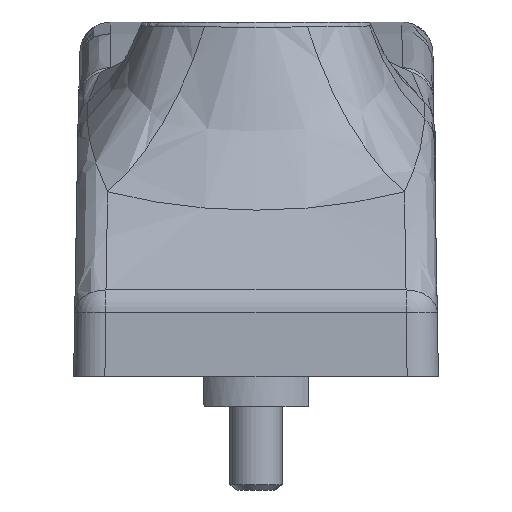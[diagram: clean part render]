
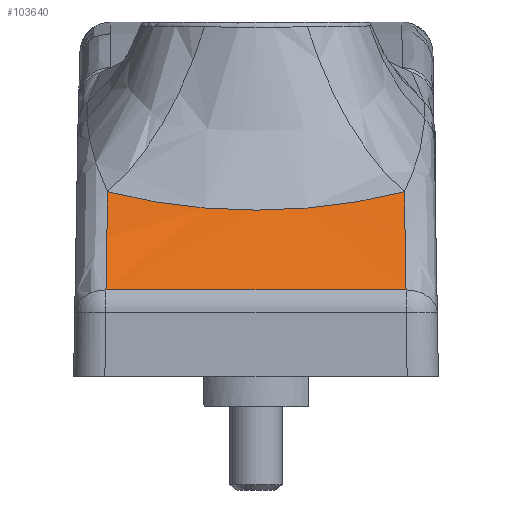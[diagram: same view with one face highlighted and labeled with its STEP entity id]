
A CAD part, front view. The second image highlights one B-rep face of the part: STEP entity #103640.
In plain terms, the highlighted cylindrical face has radius 80 mm (diameter 160 mm), a partial arc.
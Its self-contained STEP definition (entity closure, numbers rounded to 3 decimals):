
#1747 = ORIENTED_EDGE ( 'NONE', *, *, #120735, .T. ) ;
#7858 = CYLINDRICAL_SURFACE ( 'NONE', #159225, 80. ) ;
#8370 = CARTESIAN_POINT ( 'NONE',  ( 31.781, 8.999, 4.98 ) ) ;
#10298 = CARTESIAN_POINT ( 'NONE',  ( 24.215, 11.249, 6.325 ) ) ;
#11990 = VECTOR ( 'NONE', #126260, 1000. ) ;
#12289 = VERTEX_POINT ( 'NONE', #55536 ) ;
#12777 = EDGE_CURVE ( 'NONE', #116726, #12289, #63159, .T. ) ;
#14229 = CARTESIAN_POINT ( 'NONE',  ( 7.834, 11.861, 6.729 ) ) ;
#23863 = DIRECTION ( 'NONE',  ( 0., 0., 1. ) ) ;
#28287 = CARTESIAN_POINT ( 'NONE',  ( 4.371, 12.949, 7.426 ) ) ;
#29218 = CARTESIAN_POINT ( 'NONE',  ( 3.265, 13.415, 7.715 ) ) ;
#29221 = CARTESIAN_POINT ( 'NONE',  ( 23.609, 11.15, 6.259 ) ) ;
#41248 = CARTESIAN_POINT ( 'NONE',  ( 3.265, 13.415, 7.715 ) ) ;
#52492 = CARTESIAN_POINT ( 'NONE',  ( 3.265, 13.415, 7.715 ) ) ;
#55536 = CARTESIAN_POINT ( 'NONE',  ( 31.893, 1.064, -1.71 ) ) ;
#58111 = CARTESIAN_POINT ( 'NONE',  ( 26.013, 11.587, 6.549 ) ) ;
#60077 = CARTESIAN_POINT ( 'NONE',  ( 11.403, 11.133, 6.248 ) ) ;
#63159 = LINE ( 'NONE', #154302, #11990 ) ;
#69242 = CARTESIAN_POINT ( 'NONE',  ( 31.735, 13.415, 7.715 ) ) ;
#76086 = CARTESIAN_POINT ( 'NONE',  ( 3.107, 1.064, -1.71 ) ) ;
#86230 = CARTESIAN_POINT ( 'NONE',  ( 30.629, 12.949, 7.426 ) ) ;
#87205 = CARTESIAN_POINT ( 'NONE',  ( 18.737, 10.69, 5.95 ) ) ;
#88011 = B_SPLINE_CURVE_WITH_KNOTS ( 'NONE', 3,
 ( #132316, #86230, #105130, #147312, #58111, #10298, #29221, #166220, #90197, #149301, #87205, #148309, #165279, #117225, #60077, #178236, #14229, #197118, #28287, #41248 ),
 .UNSPECIFIED., .F., .F.,
 ( 4, 2, 2, 2, 2, 2, 2, 2, 2, 4 ),
 ( 0., 0.004, 0.007, 0.009, 0.011, 0.015, 0.018, 0.022, 0.026, 0.029 ),
 .UNSPECIFIED. ) ;
#90197 = CARTESIAN_POINT ( 'NONE',  ( 21.787, 10.912, 6.1 ) ) ;
#91201 =( BOUNDED_CURVE ( )  B_SPLINE_CURVE ( 3, ( #129396, #113265, #8370, #69242 ),
 .UNSPECIFIED., .F., .F. ) 
 B_SPLINE_CURVE_WITH_KNOTS ( ( 4, 4 ),
 ( 5.534, 5.729 ),
 .UNSPECIFIED. ) 
 CURVE ( )  GEOMETRIC_REPRESENTATION_ITEM ( )  RATIONAL_B_SPLINE_CURVE ( ( 1., 0.997, 0.997, 1. ) ) 
 REPRESENTATION_ITEM ( '' )  );
#92701 = ORIENTED_EDGE ( 'NONE', *, *, #12777, .T. ) ;
#94137 = CARTESIAN_POINT ( 'NONE',  ( 3.219, 8.999, 4.98 ) ) ;
#103640 = ADVANCED_FACE ( 'NONE', ( #115764 ), #7858, .T. ) ;
#105130 = CARTESIAN_POINT ( 'NONE',  ( 29.498, 12.549, 7.172 ) ) ;
#109056 = CARTESIAN_POINT ( 'NONE',  ( 3.166, 4.868, 1.828 ) ) ;
#113265 = CARTESIAN_POINT ( 'NONE',  ( 31.834, 4.868, 1.828 ) ) ;
#114770 = DIRECTION ( 'NONE',  ( -1., 0., 0. ) ) ;
#115764 = FACE_OUTER_BOUND ( 'NONE', #131705, .T. ) ;
#116726 = VERTEX_POINT ( 'NONE', #177173 ) ;
#117225 = CARTESIAN_POINT ( 'NONE',  ( 12.609, 10.967, 6.137 ) ) ;
#120735 = EDGE_CURVE ( 'NONE', #12289, #168649, #91201, .T. ) ;
#126260 = DIRECTION ( 'NONE',  ( 1., 0., 0. ) ) ;
#129396 = CARTESIAN_POINT ( 'NONE',  ( 31.893, 1.064, -1.71 ) ) ;
#131705 = EDGE_LOOP ( 'NONE', ( #1747, #151453, #191628, #92701 ) ) ;
#132316 = CARTESIAN_POINT ( 'NONE',  ( 31.735, 13.415, 7.715 ) ) ;
#147312 = CARTESIAN_POINT ( 'NONE',  ( 27.19, 11.868, 6.733 ) ) ;
#148309 = CARTESIAN_POINT ( 'NONE',  ( 16.282, 10.689, 5.949 ) ) ;
#149301 = CARTESIAN_POINT ( 'NONE',  ( 19.96, 10.745, 5.987 ) ) ;
#151453 = ORIENTED_EDGE ( 'NONE', *, *, #165746, .T. ) ;
#154302 = CARTESIAN_POINT ( 'NONE',  ( 123.96, 1.064, -1.71 ) ) ;
#159225 = AXIS2_PLACEMENT_3D ( 'NONE', #175787, #114770, #23863 ) ;
#159561 =( BOUNDED_CURVE ( )  B_SPLINE_CURVE ( 3, ( #29218, #94137, #109056, #76086 ),
 .UNSPECIFIED., .F., .F. ) 
 B_SPLINE_CURVE_WITH_KNOTS ( ( 4, 4 ),
 ( 3.696, 3.891 ),
 .UNSPECIFIED. ) 
 CURVE ( )  GEOMETRIC_REPRESENTATION_ITEM ( )  RATIONAL_B_SPLINE_CURVE ( ( 1., 0.997, 0.997, 1. ) ) 
 REPRESENTATION_ITEM ( '' )  );
#165279 = CARTESIAN_POINT ( 'NONE',  ( 15.046, 10.745, 5.987 ) ) ;
#165746 = EDGE_CURVE ( 'NONE', #168649, #167204, #88011, .T. ) ;
#166220 = CARTESIAN_POINT ( 'NONE',  ( 22.395, 10.982, 6.146 ) ) ;
#167204 = VERTEX_POINT ( 'NONE', #52492 ) ;
#168649 = VERTEX_POINT ( 'NONE', #173639 ) ;
#173639 = CARTESIAN_POINT ( 'NONE',  ( 31.735, 13.415, 7.715 ) ) ;
#175787 = CARTESIAN_POINT ( 'NONE',  ( 123.96, 55.541, -60.295 ) ) ;
#176393 = EDGE_CURVE ( 'NONE', #167204, #116726, #159561, .T. ) ;
#177173 = CARTESIAN_POINT ( 'NONE',  ( 3.107, 1.064, -1.71 ) ) ;
#178236 = CARTESIAN_POINT ( 'NONE',  ( 9.017, 11.58, 6.544 ) ) ;
#191628 = ORIENTED_EDGE ( 'NONE', *, *, #176393, .T. ) ;
#197118 = CARTESIAN_POINT ( 'NONE',  ( 5.506, 12.547, 7.171 ) ) ;
